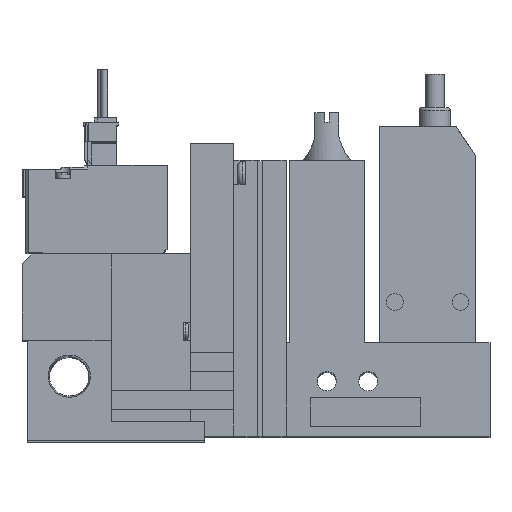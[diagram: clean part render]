
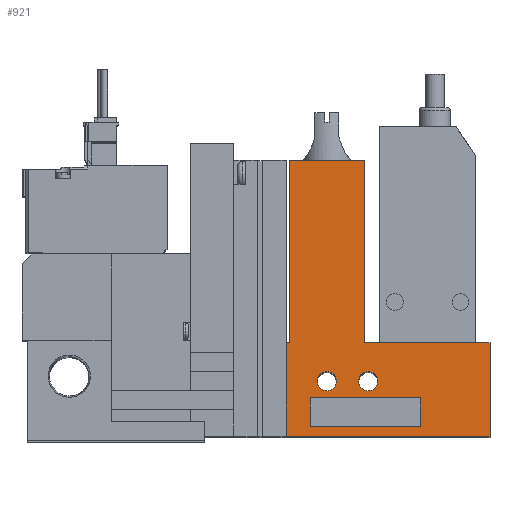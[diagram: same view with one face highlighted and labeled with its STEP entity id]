
A CAD part, top view. The second image highlights one B-rep face of the part: STEP entity #921.
In plain terms, the highlighted planar face has unit normal (0, 0, 1).
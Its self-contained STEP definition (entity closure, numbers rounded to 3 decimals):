
#921=ADVANCED_FACE('',(#1862,#1863,#1864,#1865),#1866,.T.);
#1862=FACE_BOUND('',#3153,.T.);
#1863=FACE_BOUND('',#3154,.T.);
#1864=FACE_BOUND('',#3155,.T.);
#1865=FACE_OUTER_BOUND('',#3156,.T.);
#1866=PLANE('',#3157);
#3153=EDGE_LOOP('',(#6515,#6516,#6517,#6518));
#3154=EDGE_LOOP('',(#6519));
#3155=EDGE_LOOP('',(#6520));
#3156=EDGE_LOOP('',(#6521,#6522,#6523,#6524,#6525,#6526,#6527,#6528));
#3157=AXIS2_PLACEMENT_3D('',#6529,#6530,#6531);
#6515=ORIENTED_EDGE('',*,*,#8899,.T.);
#6516=ORIENTED_EDGE('',*,*,#8931,.T.);
#6517=ORIENTED_EDGE('',*,*,#8932,.T.);
#6518=ORIENTED_EDGE('',*,*,#8913,.T.);
#6519=ORIENTED_EDGE('',*,*,#8808,.T.);
#6520=ORIENTED_EDGE('',*,*,#8933,.T.);
#6521=ORIENTED_EDGE('',*,*,#8934,.F.);
#6522=ORIENTED_EDGE('',*,*,#8935,.T.);
#6523=ORIENTED_EDGE('',*,*,#8869,.T.);
#6524=ORIENTED_EDGE('',*,*,#8936,.T.);
#6525=ORIENTED_EDGE('',*,*,#8713,.T.);
#6526=ORIENTED_EDGE('',*,*,#8937,.T.);
#6527=ORIENTED_EDGE('',*,*,#8694,.T.);
#6528=ORIENTED_EDGE('',*,*,#8938,.T.);
#6529=CARTESIAN_POINT('',(0.0,0.0,10.0));
#6530=DIRECTION('',(0.0,0.0,1.0));
#6531=DIRECTION('',(1.0,0.0,0.0));
#8694=EDGE_CURVE('',#10501,#10499,#10502,.T.);
#8713=EDGE_CURVE('',#10539,#10537,#10540,.T.);
#8808=EDGE_CURVE('',#10711,#10711,#10712,.T.);
#8869=EDGE_CURVE('',#10812,#10810,#10813,.T.);
#8899=EDGE_CURVE('',#10855,#10860,#10862,.T.);
#8913=EDGE_CURVE('',#10879,#10855,#10883,.T.);
#8931=EDGE_CURVE('',#10860,#10906,#10907,.T.);
#8932=EDGE_CURVE('',#10906,#10879,#10908,.T.);
#8933=EDGE_CURVE('',#10909,#10909,#10910,.T.);
#8934=EDGE_CURVE('',#10911,#10912,#10913,.T.);
#8935=EDGE_CURVE('',#10911,#10812,#10914,.T.);
#8936=EDGE_CURVE('',#10810,#10539,#10915,.T.);
#8937=EDGE_CURVE('',#10537,#10501,#10916,.T.);
#8938=EDGE_CURVE('',#10499,#10912,#10917,.T.);
#10499=VERTEX_POINT('',#13430);
#10501=VERTEX_POINT('',#13433);
#10502=LINE('',#13434,#13435);
#10537=VERTEX_POINT('',#13487);
#10539=VERTEX_POINT('',#13490);
#10540=LINE('',#13491,#13492);
#10711=VERTEX_POINT('',#13749);
#10712=CIRCLE('',#13750,2.0);
#10810=VERTEX_POINT('',#13949);
#10812=VERTEX_POINT('',#13952);
#10813=LINE('',#13953,#13954);
#10855=VERTEX_POINT('',#14021);
#10860=VERTEX_POINT('',#14028);
#10862=LINE('',#14031,#14032);
#10879=VERTEX_POINT('',#14054);
#10883=LINE('',#14060,#14061);
#10906=VERTEX_POINT('',#14100);
#10907=LINE('',#14101,#14102);
#10908=LINE('',#14103,#14104);
#10909=VERTEX_POINT('',#14105);
#10910=CIRCLE('',#14106,2.0);
#10911=VERTEX_POINT('',#14107);
#10912=VERTEX_POINT('',#14108);
#10913=LINE('',#14109,#14110);
#10914=LINE('',#14111,#14112);
#10915=LINE('',#14113,#14114);
#10916=LINE('',#14115,#14116);
#10917=LINE('',#14117,#14118);
#13430=CARTESIAN_POINT('',(55.75,19.5,10.0));
#13433=CARTESIAN_POINT('',(55.75,57.5,10.0));
#13434=CARTESIAN_POINT('',(55.75,57.5,10.0));
#13435=VECTOR('',#16088,1.0);
#13487=CARTESIAN_POINT('',(71.45,57.5,10.0));
#13490=CARTESIAN_POINT('',(71.45,19.5,10.0));
#13491=CARTESIAN_POINT('',(71.45,19.5,10.0));
#13492=VECTOR('',#16107,1.0);
#13749=CARTESIAN_POINT('',(65.6,11.5,10.0));
#13750=AXIS2_PLACEMENT_3D('',#16218,#16219,#16220);
#13949=CARTESIAN_POINT('',(97.6,19.5,10.0));
#13952=CARTESIAN_POINT('',(97.6,0.0,10.0));
#13953=CARTESIAN_POINT('',(97.6,0.0,10.0));
#13954=VECTOR('',#16287,1.0);
#14021=CARTESIAN_POINT('',(60.1,2.0,10.0));
#14028=CARTESIAN_POINT('',(60.1,8.0,10.0));
#14031=CARTESIAN_POINT('',(60.1,0.0,10.0));
#14032=VECTOR('',#16319,1.0);
#14054=CARTESIAN_POINT('',(83.1,2.0,10.0));
#14060=CARTESIAN_POINT('',(0.0,2.0,10.0));
#14061=VECTOR('',#16345,1.0);
#14100=CARTESIAN_POINT('',(83.1,8.0,10.0));
#14101=CARTESIAN_POINT('',(0.0,8.0,10.0));
#14102=VECTOR('',#16365,1.0);
#14103=CARTESIAN_POINT('',(83.1,0.0,10.0));
#14104=VECTOR('',#16366,1.0);
#14105=CARTESIAN_POINT('',(74.2,11.5,10.0));
#14106=AXIS2_PLACEMENT_3D('',#16367,#16368,#16369);
#14107=CARTESIAN_POINT('',(55.1,0.0,10.0));
#14108=CARTESIAN_POINT('',(55.1,19.5,10.0));
#14109=CARTESIAN_POINT('',(55.1,0.0,10.0));
#14110=VECTOR('',#16370,1.0);
#14111=CARTESIAN_POINT('',(18.6,0.0,10.0));
#14112=VECTOR('',#16371,1.0);
#14113=CARTESIAN_POINT('',(97.6,19.5,10.0));
#14114=VECTOR('',#16372,1.0);
#14115=CARTESIAN_POINT('',(71.45,57.5,10.0));
#14116=VECTOR('',#16373,1.0);
#14117=CARTESIAN_POINT('',(55.75,19.5,10.0));
#14118=VECTOR('',#16374,1.0);
#16088=DIRECTION('',(0.0,-1.0,0.0));
#16107=DIRECTION('',(0.0,1.0,0.0));
#16218=CARTESIAN_POINT('',(63.6,11.5,10.0));
#16219=DIRECTION('',(0.0,0.0,-1.0));
#16220=DIRECTION('',(1.0,0.0,0.0));
#16287=DIRECTION('',(0.0,1.0,0.0));
#16319=DIRECTION('',(0.0,1.0,0.0));
#16345=DIRECTION('',(-1.0,0.0,0.0));
#16365=DIRECTION('',(1.0,0.0,0.0));
#16366=DIRECTION('',(0.0,-1.0,0.0));
#16367=CARTESIAN_POINT('',(72.2,11.5,10.0));
#16368=DIRECTION('',(0.0,0.0,-1.0));
#16369=DIRECTION('',(1.0,0.0,0.0));
#16370=DIRECTION('',(0.0,1.0,0.0));
#16371=DIRECTION('',(1.0,0.0,0.0));
#16372=DIRECTION('',(-1.0,0.0,0.0));
#16373=DIRECTION('',(-1.0,0.0,0.0));
#16374=DIRECTION('',(-1.0,0.0,0.0));
